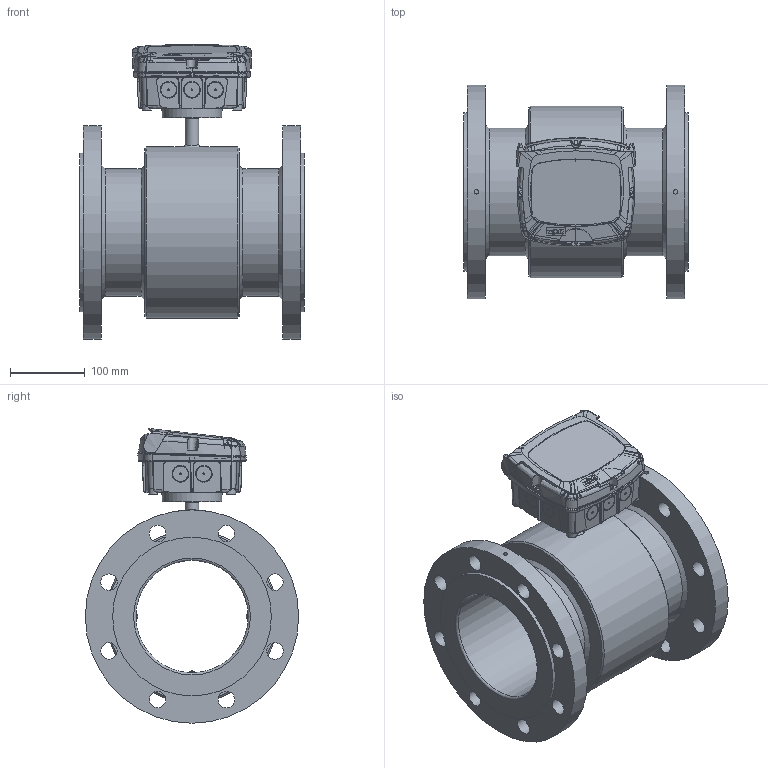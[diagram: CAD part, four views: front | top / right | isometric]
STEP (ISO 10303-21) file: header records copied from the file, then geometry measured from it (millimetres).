
FILE_DESCRIPTION((''),'2;1');
FILE_NAME('C:\Users\Claus\Dropbox\Projects 2011 - 2012\MJK Automation AS\DN 150 - DIN EN-1095-1.stp','2014-10-24T15:16:23',('Claus'),(''),'Autodesk Inventor 2013','Autodesk Inventor 2013','');
FILE_SCHEMA(('AUTOMOTIVE_DESIGN { 1 0 10303 214 1 1 1 1 }'));
Length unit declared in the file: millimetre
Products named in the file (7): DN 150 - DIN EN-1095-1; FC_MagFlux_assembly_r1; CH Bund ml; FC Top rev 06.04; CH 03.02; Electrode group DN15 - DN32
Assembly tree (8 placements, depth 3):
  DN 150 - DIN EN-1095-1
    DN 150 - DIN EN-1095-1
    FC_MagFlux_assembly_r1
      CH Bund ml
      FC Top rev 06.04
      CH 03.02
    Electrode group DN15 - DN32  x3
Bounding box: 300 x 285 x 393.34 mm (x, y, z)
Volume: 6187311.8 mm3; surface area: 813699 mm2
Topology: 10 solids, 10 shells, 2935 faces, 7994 edges, 5203 vertices
Faces by surface type: bspline 1752, plane 810, cylinder 210, cone 123, torus 25, revolution 9, sphere 6
Full cylindrical faces by diameter (mm): 2.5 x3, 3 x6, 4 x1, 6 x2, 6.5 x4, 7.042 x4, 8 x3, 8.048 x4, 12.072 x4, 15 x1, 18 x1, 18.108 x1, 22 x16, 64 x1, 150 x1, 170 x2, 212 x2, 229 x1, 285 x2
Entity records: 234060 total; most frequent: CARTESIAN_POINT 171564, ORIENTED_EDGE 15496, DIRECTION 7757, EDGE_CURVE 7748, VERTEX_POINT 5141, EDGE_LOOP 3273, VECTOR 3112, LINE 3112
